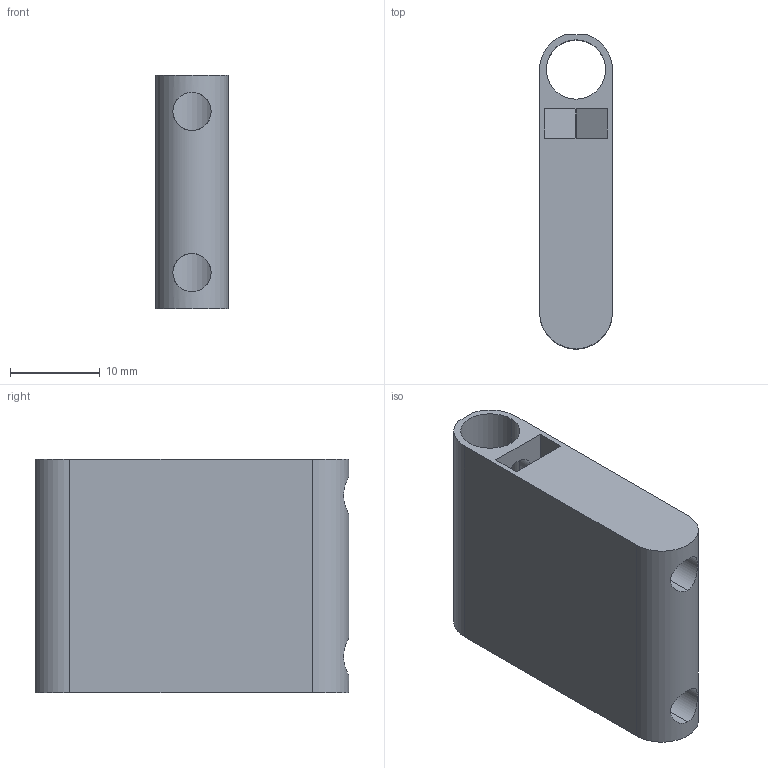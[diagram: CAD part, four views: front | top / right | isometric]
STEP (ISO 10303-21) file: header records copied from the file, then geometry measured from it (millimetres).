
FILE_DESCRIPTION (( 'STEP AP214' ), '1' );
FILE_NAME ('Butterfly_CylinderMagnets.STEP', '2026-02-03T21:47:04', ( '' ), ( '' ), 'SwSTEP 2.0', 'SolidWorks 2025', '' );
FILE_SCHEMA (( 'AUTOMOTIVE_DESIGN' ));
Length unit declared in the file: millimetre
Products named in the file (1): Butterfly_CylinderMagnets
Bounding box: 8.1 x 34.9 x 26 mm (x, y, z)
Volume: 5108.8 mm3; surface area: 3899.6 mm2
Topology: 1 solids, 1 shells, 32 faces, 84 edges, 56 vertices
Faces by surface type: plane 19, cylinder 13
Entity records: 1253 total; most frequent: CARTESIAN_POINT 413, ORIENTED_EDGE 168, DIRECTION 160, EDGE_CURVE 84, LINE 58, VECTOR 58, VERTEX_POINT 56, AXIS2_PLACEMENT_3D 51
